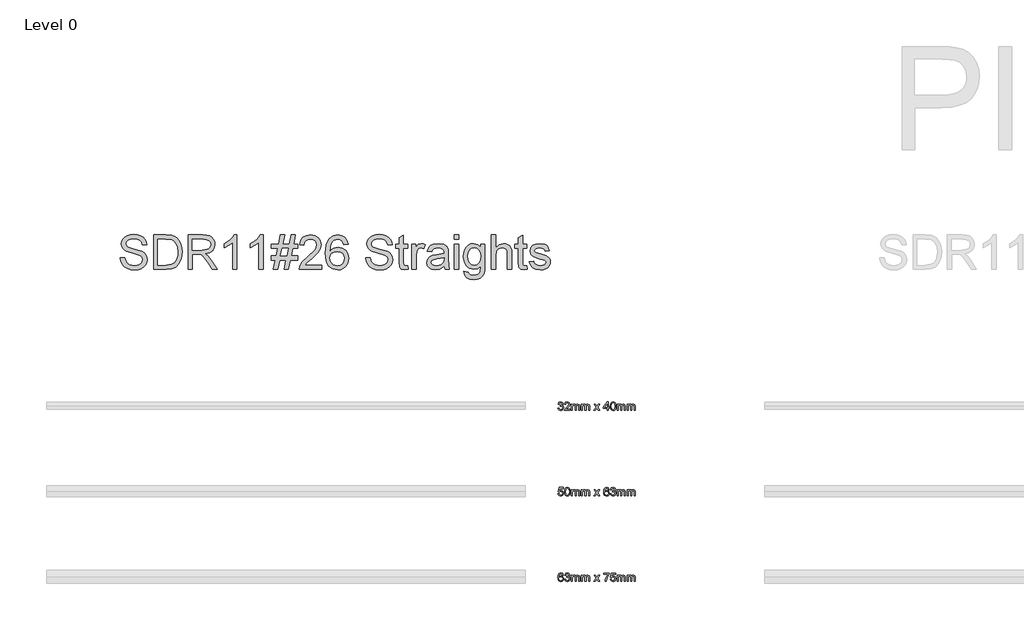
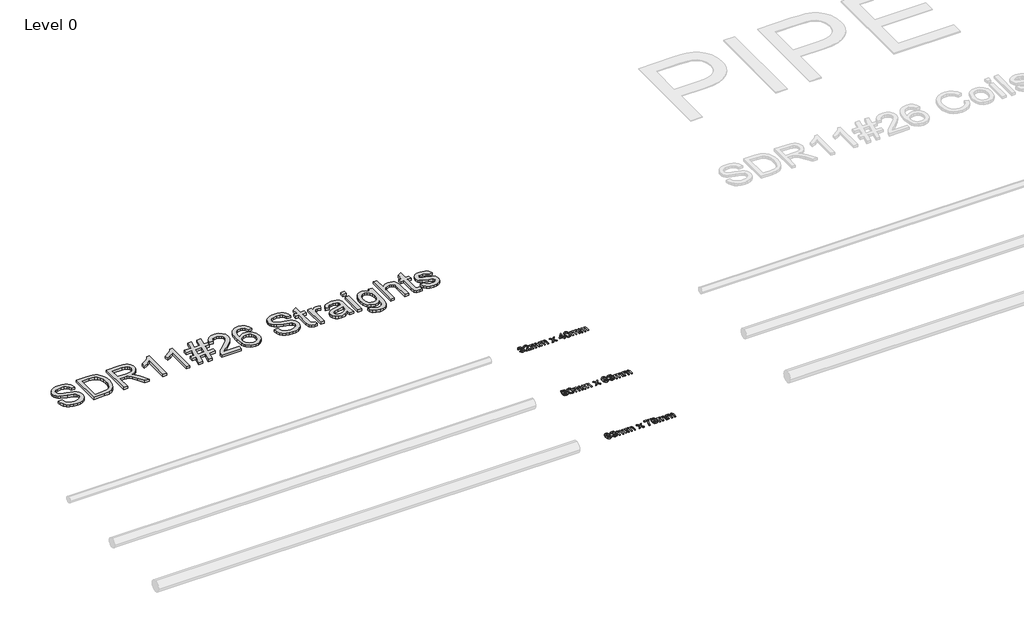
# One storey, part 19 of 21: 4 proxies.
"""IFC4 building model written with IfcOpenShell, lengths in millimetres."""

import ifcopenshell
import ifcopenshell.guid

model = None  # the IFC model being written
_history = None  # IfcOwnerHistory: only IFC2X3 demands one
_inside = {}  # id of a spatial element -> (the spatial element, [elements in it])
_under = {}  # id of a project, library or spatial element -> (it, [spatial elements below it])
_declared = {}  # id of a project -> (the project, [libraries it declares])
_typed = {}  # id of a type object -> (the type object, [elements of that type])
_made_of = {}  # id of a material, layer set ... -> (it, [elements and type objects made of it])


def new_model(schema):
    """Start an empty IFC model of exactly this schema.

    Asked for "IFC4X3", IfcOpenShell would pick the latest addendum, in which some entities
    have other attributes; the version numbers below select the first issue.
    IFC2X3 requires an IfcOwnerHistory on every rooted entity: one is made here for all.
    """
    global model, _history
    if schema == "IFC4X3":
        model = ifcopenshell.file(schema_version=(4, 3, 0, 0))
    else:
        model = ifcopenshell.file(schema=schema)
    _inside.clear()
    _under.clear()
    _declared.clear()
    _typed.clear()
    _made_of.clear()
    _history = None
    if model.schema == "IFC2X3":
        org = make("IfcOrganization", Name="unknown")
        user = make(
            "IfcPersonAndOrganization",
            ThePerson=make("IfcPerson", FamilyName="unknown"),
            TheOrganization=org,
        )
        app = make(
            "IfcApplication",
            ApplicationDeveloper=org,
            Version="unknown",
            ApplicationFullName="unknown",
            ApplicationIdentifier="unknown",
        )
        _history = make(
            "IfcOwnerHistory",
            OwningUser=user,
            OwningApplication=app,
            ChangeAction="ADDED",
            CreationDate=0,
        )
    return model


def make(cls, **values):
    """One entity of the class cls with the attributes given. An attribute that is None is left unset."""
    return model.create_entity(
        cls, **{name: value for name, value in values.items() if value is not None}
    )


def rooted(cls, **values):
    """An entity with a GlobalId (a new one), such as an element, a storey or a relation."""
    return make(cls, GlobalId=ifcopenshell.guid.new(), OwnerHistory=_history, **values)


def si_unit(unit_type, name, prefix=None):
    """IfcSIUnit, for example si_unit("LENGTHUNIT", "METRE", prefix="MILLI")."""
    return make("IfcSIUnit", UnitType=unit_type, Prefix=prefix, Name=name)


def assignment(units):
    """IfcUnitAssignment: the units of a project."""
    return None if units is None else make("IfcUnitAssignment", Units=units)


def point(xyz):
    """IfcCartesianPoint."""
    return None if xyz is None else make("IfcCartesianPoint", Coordinates=xyz)


def direction(xyz):
    """IfcDirection."""
    return None if xyz is None else make("IfcDirection", DirectionRatios=xyz)


def frame(location, z_axis=None, x_axis=None):
    """IfcAxis2Placement3D, a coordinate frame: its origin and axes. An axis left out is left unset."""
    return make(
        "IfcAxis2Placement3D",
        Location=point(location),
        Axis=direction(z_axis),
        RefDirection=direction(x_axis),
    )


def origin():
    """The frame at (0, 0, 0) with its axes left unset."""
    return frame((0.0, 0.0, 0.0))


def origin_with_axes():
    """The frame at (0, 0, 0) with the z axis (0, 0, 1) and the x axis (1, 0, 0) written out."""
    return frame((0.0, 0.0, 0.0), z_axis=(0.0, 0.0, 1.0), x_axis=(1.0, 0.0, 0.0))


def place(relative_to, where):
    """IfcLocalPlacement: puts the frame where relative to a parent placement (None: the world)."""
    return make(
        "IfcLocalPlacement", PlacementRelTo=relative_to, RelativePlacement=where
    )


def context(
    kind, dimensions, precision=None, world=None, true_north=None, identifier=None
):
    """IfcGeometricRepresentationContext, for example the 3D "Model" context."""
    return make(
        "IfcGeometricRepresentationContext",
        ContextIdentifier=identifier,
        ContextType=kind,
        CoordinateSpaceDimension=dimensions,
        Precision=precision,
        WorldCoordinateSystem=world,
        TrueNorth=true_north,
    )


def project(units=None, contexts=None):
    """IfcProject with its units and contexts."""
    return rooted(
        "IfcProject",
        Name="project",
        RepresentationContexts=contexts,
        UnitsInContext=assignment(units),
    )


def spatial(cls, under=None, at=None, **own):
    """A site, building, storey or space (cls), placed at a placement, below another one or the project."""
    s = rooted(cls, ObjectPlacement=at, **own)
    if under is not None:
        _under.setdefault(under.id(), (under, []))[1].append(s)
    return s


def polyline(points):
    """IfcPolyline through the points."""
    return make("IfcPolyline", Points=[point(p) for p in points])


def outline(outer, holes=None, kind="AREA"):
    """IfcArbitraryClosedProfileDef: a profile drawn as a closed curve; with holes, ...WithVoids."""
    if holes is None:
        return make("IfcArbitraryClosedProfileDef", ProfileType=kind, OuterCurve=outer)
    return make(
        "IfcArbitraryProfileDefWithVoids",
        ProfileType=kind,
        OuterCurve=outer,
        InnerCurves=holes,
    )


def extrude(swept, where, along, depth):
    """IfcExtrudedAreaSolid: the profile swept, set in the frame where, extruded along a direction by depth."""
    return make(
        "IfcExtrudedAreaSolid",
        SweptArea=swept,
        Position=where,
        ExtrudedDirection=direction(along),
        Depth=depth,
    )


def shape(context_of_items, identifier, shape_type, items):
    """IfcShapeRepresentation: the items that make up one representation, for example the "Body"."""
    return make(
        "IfcShapeRepresentation",
        ContextOfItems=context_of_items,
        RepresentationIdentifier=identifier,
        RepresentationType=shape_type,
        Items=items,
    )


def made_of(thing, what):
    """Note that an element or type object is made of a material, layer set ...; save() writes the relation."""
    if what is not None:
        _made_of.setdefault(what.id(), (what, []))[1].append(thing)
    return thing


def element(
    cls,
    number,
    at=None,
    inside=None,
    cuts=None,
    type_object=None,
    material=None,
    context=None,
    identifier="Body",
    shape_type=None,
    held_by="IfcProductDefinitionShape",
    body=None,
    shapes=None,
    **own,
):
    """One element of the class cls, such as IfcWall. Its Tag is "e" and its number.

    at: its placement. inside: the storey or other place that contains it. cuts: it is an
    opening in that element (IfcRelVoidsElement). A single representation is given by context,
    identifier, shape_type and body (its items); several are given by shapes. held_by: the class
    of the entity that holds the representations. save() writes the other relations.
    """
    e = rooted(cls, Tag="e%d" % number, ObjectPlacement=at, **own)
    if body is not None:
        shapes = [shape(context, identifier, shape_type, body)]
    if shapes is not None:
        e.Representation = make(held_by, Representations=shapes)
    if inside is not None:
        _inside.setdefault(inside.id(), (inside, []))[1].append(e)
    if cuts is not None:
        rooted(
            "IfcRelVoidsElement", RelatingBuildingElement=cuts, RelatedOpeningElement=e
        )
    if type_object is not None:
        _typed.setdefault(type_object.id(), (type_object, []))[1].append(e)
    return made_of(e, material)


def aggregate(whole, parts):
    """IfcRelAggregates: a whole, such as a stair, and the parts it consists of."""
    return rooted("IfcRelAggregates", RelatingObject=whole, RelatedObjects=parts)


def save(model, path):
    """Write the relations noted so far, then the file.

    IfcRelAggregates (storeys below a building ...), IfcRelContainedInSpatialStructure (elements
    in a storey), IfcRelDefinesByType, IfcRelAssociatesMaterial and IfcRelDeclares: one each for
    every whole, place, type object, material and project.
    """
    for whole, parts in _under.values():
        aggregate(whole, parts)
    for where, things in _inside.values():
        rooted(
            "IfcRelContainedInSpatialStructure",
            RelatedElements=things,
            RelatingStructure=where,
        )
    for kind, things in _typed.values():
        rooted("IfcRelDefinesByType", RelatedObjects=things, RelatingType=kind)
    for what, things in _made_of.values():
        rooted("IfcRelAssociatesMaterial", RelatedObjects=things, RelatingMaterial=what)
    for by, libraries in _declared.values():
        rooted("IfcRelDeclares", RelatingContext=by, RelatedDefinitions=libraries)
    model.write(path)


model = new_model("IFC4")

# Units and contexts
model_context = context("Model", 3, world=origin())
ifc_project = project(units=[si_unit("LENGTHUNIT", "METRE", prefix="MILLI")], contexts=[model_context])

# Site, building, storey
site = spatial("IfcSite", under=ifc_project)
building = spatial("IfcBuilding", under=site)
storey = spatial("IfcBuildingStorey", under=building, Name="Level 0", Elevation=0.0)

# Proxies
placement = place(None, origin())
element("IfcBuildingElementProxy", 1, Name="200mm Arial", ObjectType="200mm Arial", at=placement, inside=storey, context=model_context, shape_type="SweptSolid", body=[
    extrude(outline(polyline([(-11897.0717054, 4215.8524501), (-11871.9576279, 4215.8524501), (-11863.864224, 4190.7138471), (-11855.7340319, 4181.8233656), (-11844.0966981, 4174.8213449), (-11829.8719276, 4170.2780023), (-11813.9794254, 4168.7635548), (-11787.7371764, 4173.349817), (-11770.7900792, 4185.9559067), (-11765.2227983, 4202.804902), (-11769.3921276, 4218.476675), (-11775.7442234, 4224.6754867), (-11786.4618522, 4229.8810169), (-11823.0293225, 4239.4704742), (-11862.392696, 4251.8558347), (-11874.8945525, 4260.3048579), (-11883.7543772, 4270.5442401), (-11889.0334838, 4282.3532521), (-11890.793186, 4295.5111648), (-11888.6165509, 4310.2203133), (-11882.0866455, 4323.9361803), (-11871.375148, 4335.5612514), (-11856.6537369, 4343.9980118), (-11838.9831384, 4349.1299656), (-11819.4240789, 4350.8406169), (-11798.234076, 4349.0502579), (-11779.6928235, 4343.6791807), (-11764.4625089, 4334.8377501), (-11753.2053198, 4322.6363306), (-11746.0806718, 4307.8352117), (-11743.2479805, 4291.1946827), (-11768.362058, 4291.1946827), (-11772.9728457, 4306.1797427), (-11782.5868285, 4316.9954733), (-11797.6086766, 4323.5437729), (-11818.4430603, 4325.7265394), (-11839.7679533, 4323.5682983), (-11854.397394, 4317.0935752), (-11862.8586798, 4307.5654315), (-11865.6791085, 4296.2469288), (-11863.680283, 4286.5961578), (-11857.6838064, 4278.8338477), (-11843.5080869, 4271.8931407), (-11816.6772267, 4264.805281), (-11772.2370817, 4252.1991913), (-11757.9203407, 4243.0879805), (-11747.9323446, 4231.8430542), (-11742.0646267, 4218.5870396), (-11740.1087208, 4203.4425642), (-11742.3589323, 4187.9608635), (-11749.1095669, 4173.3988679), (-11760.0847131, 4160.8663546), (-11775.0084594, 4151.473101), (-11792.9549694, 4145.6053832), (-11812.9984068, 4143.6494772), (-11837.6035809, 4145.7586673), (-11857.8554847, 4152.0862376), (-11873.9871102, 4162.6567136), (-11886.2314493, 4177.4946208), (-11894.0918612, 4195.5698895), (-11897.0717054, 4215.8524501)])), origin_with_axes(), (0.0, 0.0, 1.0), 15.0),
    extrude(outline(polyline([(-11702.4376045, 4146.7887369), (-11702.4376045, 4347.7013572), (-11633.1286366, 4347.7013572), (-11597.2724048, 4344.8073522), (-11581.2572753, 4339.2278086), (-11567.7437433, 4330.4354289), (-11553.8500666, 4315.1315379), (-11543.954041, 4296.099776), (-11538.0311408, 4273.7080252), (-11536.0568408, 4248.3241676), (-11541.4033925, 4207.7835717), (-11555.1376536, 4178.5246904), (-11573.4827024, 4160.3022689), (-11597.493134, 4150.2223022), (-11629.7931732, 4146.7887369), (-11702.4376045, 4146.7887369)]), holes=[polyline([(-11677.3235269, 4171.9028144), (-11632.8833819, 4171.9028144), (-11600.5588173, 4175.5325835), (-11581.9194629, 4185.7842284), (-11573.1945282, 4196.6551414), (-11566.6400973, 4210.7266277), (-11562.5382131, 4228.060001), (-11561.1709183, 4248.716575), (-11563.8503255, 4276.0869955), (-11571.8885471, 4296.2959797), (-11583.7650042, 4310.1773937), (-11597.9591178, 4318.5651032), (-11633.570095, 4322.5872797), (-11677.3235269, 4322.5872797), (-11677.3235269, 4171.9028144)])]), origin_with_axes(), (0.0, 0.0, 1.0), 15.0),
    extrude(outline(polyline([(-11501.5249842, 4146.7887369), (-11501.5249842, 4347.7013572), (-11414.950088, 4347.7013572), (-11391.6815518, 4346.3463252), (-11374.7528486, 4342.2812291), (-11362.3797509, 4334.7764364), (-11352.7780308, 4323.1023145), (-11346.6160074, 4308.626158), (-11344.5619996, 4292.7152617), (-11347.964908, 4272.9232103), (-11358.1736334, 4256.5156733), (-11375.494744, 4244.4859321), (-11400.2348082, 4237.827268), (-11385.9609868, 4227.0851137), (-11365.6048497, 4201.2352722), (-11332.1030627, 4146.7887369), (-11361.2883676, 4146.7887369), (-11387.4325147, 4188.4329788), (-11406.3171238, 4215.9996029), (-11419.5854011, 4229.0226256), (-11431.5293032, 4233.8050915), (-11446.0974302, 4234.6880083), (-11476.4109066, 4234.6880083), (-11476.4109066, 4146.7887369), (-11501.5249842, 4146.7887369)]), holes=[polyline([(-11476.4109066, 4259.8020858), (-11420.1985378, 4259.8020858), (-11391.5282676, 4263.3582784), (-11382.0982258, 4267.9813289), (-11375.243358, 4274.7380948), (-11369.6760771, 4291.7832939), (-11372.3309588, 4304.0337644), (-11380.295604, 4313.9052646), (-11393.9992084, 4320.4167759), (-11413.8709675, 4322.5872797), (-11476.4109066, 4322.5872797), (-11476.4109066, 4259.8020858)])]), origin_with_axes(), (0.0, 0.0, 1.0), 15.0),
    extrude(outline(polyline([(-11215.8523522, 4146.7887369), (-11240.9664297, 4146.7887369), (-11240.9664297, 4303.3593141), (-11264.7561321, 4286.4122168), (-11291.1945848, 4273.7325507), (-11291.1945848, 4297.4732021), (-11254.3818598, 4320.9685989), (-11240.9112474, 4334.5434445), (-11232.03916, 4347.7013572), (-11215.8523522, 4347.7013572), (-11215.8523522, 4146.7887369)])), origin_with_axes(), (0.0, 0.0, 1.0), 15.0),
    extrude(outline(polyline([(-11062.0286273, 4146.7887369), (-11087.1427048, 4146.7887369), (-11087.1427048, 4303.3593141), (-11110.9324072, 4286.4122168), (-11137.3708599, 4273.7325507), (-11137.3708599, 4297.4732021), (-11100.5581349, 4320.9685989), (-11087.0875225, 4334.5434445), (-11078.2154351, 4347.7013572), (-11062.0286273, 4347.7013572), (-11062.0286273, 4146.7887369)])), origin_with_axes(), (0.0, 0.0, 1.0), 15.0),
    extrude(outline(polyline([(-11002.3826931, 4146.7887369), (-10991.542437, 4200.1561517), (-11014.9397319, 4200.1561517), (-11014.9397319, 4225.2702292), (-10986.44114, 4225.2702292), (-10977.5138703, 4269.2198649), (-11014.9397319, 4269.2198649), (-11014.9397319, 4294.3339424), (-10972.4125733, 4294.3339424), (-10961.5723171, 4347.7013572), (-10936.1148831, 4347.7013572), (-10946.9551392, 4294.3339424), (-10910.0197869, 4294.3339424), (-10899.1795307, 4347.7013572), (-10873.6730457, 4347.7013572), (-10884.5133019, 4294.3339424), (-10861.116007, 4294.3339424), (-10861.116007, 4269.2198649), (-10889.6145989, 4269.2198649), (-10898.5418686, 4225.2702292), (-10861.116007, 4225.2702292), (-10861.116007, 4200.1561517), (-10903.6431656, 4200.1561517), (-10914.4834217, 4146.7887369), (-10939.9899067, 4146.7887369), (-10929.1496506, 4200.1561517), (-10966.035952, 4200.1561517), (-10976.8762081, 4146.7887369), (-11002.3826931, 4146.7887369)]), holes=[polyline([(-10960.934655, 4225.2702292), (-10924.0483536, 4225.2702292), (-10915.1210839, 4269.2198649), (-10952.0564362, 4269.2198649), (-10960.934655, 4225.2702292)])]), origin_with_axes(), (0.0, 0.0, 1.0), 15.0),
    extrude(outline(polyline([(-10719.8493208, 4171.9028144), (-10719.8493208, 4146.7887369), (-10851.6982279, 4146.7887369), (-10849.0004266, 4164.1037161), (-10833.7455865, 4190.7628981), (-10802.3039387, 4219.8746266), (-10758.9429142, 4261.7150722), (-10750.8127221, 4276.1360464), (-10748.1026581, 4290.1646132), (-10750.6594379, 4302.740046), (-10758.3297775, 4313.1940261), (-10770.1203955, 4320.2389663), (-10785.0380104, 4322.5872797), (-10800.703652, 4320.2941486), (-10812.8744147, 4313.4147553), (-10820.7286953, 4302.48866), (-10823.4448907, 4288.0554231), (-10848.5589682, 4291.1946827), (-10842.4705212, 4315.4871572), (-10829.3064771, 4333.2313321), (-10809.7535491, 4344.0838509), (-10784.4984501, 4347.7013572), (-10759.0594101, 4343.6791807), (-10739.5432703, 4331.6126513), (-10727.127253, 4313.5864335), (-10722.9885805, 4291.6851921), (-10727.4522154, 4267.8709643), (-10742.2901225, 4243.247396), (-10778.2689817, 4208.8381668), (-10807.159981, 4184.6805824), (-10818.4907465, 4171.9028144), (-10719.8493208, 4171.9028144)])), origin_with_axes(), (0.0, 0.0, 1.0), 15.0),
    extrude(outline(polyline([(-10566.0255959, 4294.3339424), (-10591.1396734, 4291.1946827), (-10600.6555544, 4312.139431), (-10612.0476335, 4319.9753175), (-10625.8186829, 4322.5872797), (-10648.4802138, 4316.504964), (-10657.9163869, 4306.8971126), (-10665.6235147, 4293.6717549), (-10670.829045, 4274.9649554), (-10672.7604254, 4248.9127788), (-10662.6865901, 4260.6666085), (-10650.6139293, 4268.9500848), (-10637.2168933, 4273.8613094), (-10623.1699325, 4275.4983843), (-10599.9688413, 4271.0224867), (-10580.4956211, 4257.5947939), (-10567.2886574, 4237.0792413), (-10562.8863362, 4211.3397643), (-10564.9587381, 4193.3564661), (-10571.1759438, 4176.6852804), (-10581.0229186, 4162.546349), (-10593.9846275, 4152.159814), (-10609.4724595, 4145.7770614), (-10626.8978034, 4143.6494772), (-10655.3902639, 4149.2903345), (-10678.0824516, 4166.2129063), (-10686.7414741, 4179.321768), (-10692.9264901, 4196.0849243), (-10697.874503, 4240.5741202), (-10692.3807985, 4290.5938088), (-10685.5136679, 4309.671556), (-10675.8996851, 4324.7945716), (-10665.4794276, 4334.8162903), (-10653.3975698, 4341.9746608), (-10624.249053, 4347.7013572), (-10602.2129215, 4344.1574273), (-10584.5668485, 4333.5256377), (-10572.2060134, 4316.6398541), (-10566.0255959, 4294.3339424)]), holes=[polyline([(-10672.7604254, 4211.7321718), (-10666.9478899, 4189.9780831), (-10651.4968461, 4174.1836828), (-10628.8598407, 4168.7635548), (-10612.2867568, 4171.5717207), (-10599.2576028, 4179.9962183), (-10590.814711, 4193.2399702), (-10588.0004138, 4210.5058985), (-10590.7779228, 4227.0789824), (-10599.11045, 4239.7157289), (-10612.3603332, 4247.7171623), (-10629.8899103, 4250.3843068), (-10646.4384687, 4247.7171623), (-10660.2769631, 4239.7157289), (-10669.6395599, 4227.3855507), (-10672.7604254, 4211.7321718)])]), origin_with_axes(), (0.0, 0.0, 1.0), 15.0),
    extrude(outline(polyline([(-10462.4300261, 4215.8524501), (-10437.3159485, 4215.8524501), (-10429.2225446, 4190.7138471), (-10421.0923525, 4181.8233656), (-10409.4550188, 4174.8213449), (-10395.2302483, 4170.2780023), (-10379.3377461, 4168.7635548), (-10353.0954971, 4173.349817), (-10336.1483999, 4185.9559067), (-10330.581119, 4202.804902), (-10334.7504483, 4218.476675), (-10341.1025441, 4224.6754867), (-10351.8201729, 4229.8810169), (-10388.3876432, 4239.4704742), (-10427.7510167, 4251.8558347), (-10440.2528731, 4260.3048579), (-10449.1126978, 4270.5442401), (-10454.3918045, 4282.3532521), (-10456.1515067, 4295.5111648), (-10453.9748715, 4310.2203133), (-10447.4449661, 4323.9361803), (-10436.7334687, 4335.5612514), (-10422.0120575, 4343.9980118), (-10404.341459, 4349.1299656), (-10384.7823996, 4350.8406169), (-10363.5923967, 4349.0502579), (-10345.0511441, 4343.6791807), (-10329.8208295, 4334.8377501), (-10318.5636405, 4322.6363306), (-10311.4389925, 4307.8352117), (-10308.6063012, 4291.1946827), (-10333.7203787, 4291.1946827), (-10338.3311664, 4306.1797427), (-10347.9451492, 4316.9954733), (-10362.9669973, 4323.5437729), (-10383.801381, 4325.7265394), (-10405.126274, 4323.5682983), (-10419.7557146, 4317.0935752), (-10428.2170005, 4307.5654315), (-10431.0374291, 4296.2469288), (-10429.0386036, 4286.5961578), (-10423.0421271, 4278.8338477), (-10408.8664076, 4271.8931407), (-10382.0355474, 4264.805281), (-10337.5954024, 4252.1991913), (-10323.2786614, 4243.0879805), (-10313.2906652, 4231.8430542), (-10307.4229474, 4218.5870396), (-10305.4670415, 4203.4425642), (-10307.717253, 4187.9608635), (-10314.4678876, 4173.3988679), (-10325.4430338, 4160.8663546), (-10340.3667801, 4151.473101), (-10358.3132901, 4145.6053832), (-10378.3567274, 4143.6494772), (-10402.9619016, 4145.7586673), (-10423.2138054, 4152.0862376), (-10439.3454309, 4162.6567136), (-10451.5897699, 4177.4946208), (-10459.4501819, 4195.5698895), (-10462.4300261, 4215.8524501)])), origin_with_axes(), (0.0, 0.0, 1.0), 15.0),
    extrude(outline(polyline([(-10217.5677701, 4167.7334852), (-10214.4285104, 4146.0529729), (-10233.2150176, 4143.6494772), (-10254.2578677, 4147.8188065), (-10264.7547673, 4158.7571645), (-10267.7959252, 4187.2557564), (-10267.7959252, 4269.2198649), (-10286.6314833, 4269.2198649), (-10286.6314833, 4294.3339424), (-10267.7959252, 4294.3339424), (-10267.7959252, 4330.1901742), (-10242.6818476, 4344.954505), (-10242.6818476, 4294.3339424), (-10217.5677701, 4294.3339424), (-10217.5677701, 4269.2198649), (-10242.6818476, 4269.2198649), (-10242.6818476, 4187.9915204), (-10241.3574724, 4175.0420741), (-10237.0655158, 4170.4558119), (-10228.5061281, 4168.7635548), (-10217.5677701, 4167.7334852)])), origin_with_axes(), (0.0, 0.0, 1.0), 15.0),
    extrude(outline(polyline([(-10192.4536925, 4146.7887369), (-10192.4536925, 4294.3339424), (-10170.4788747, 4294.3339424), (-10170.4788747, 4272.5062774), (-10154.8806781, 4292.6171598), (-10139.1843796, 4297.4732021), (-10126.6763918, 4295.5356903), (-10113.9722002, 4289.7231548), (-10122.3599097, 4267.2087767), (-10140.0182455, 4272.3591246), (-10154.2184905, 4267.4049804), (-10163.2683876, 4253.6707192), (-10167.339615, 4224.3382615), (-10167.339615, 4146.7887369), (-10192.4536925, 4146.7887369)])), origin_with_axes(), (0.0, 0.0, 1.0), 15.0),
    extrude(outline(polyline([(-10004.098111, 4165.6242951), (-10028.4518991, 4148.6036214), (-10055.3563357, 4143.6494772), (-10076.3440035, 4146.6293214), (-10091.8257041, 4155.5688539), (-10101.3722419, 4169.1436995), (-10104.5544212, 4186.0294831), (-10099.7474298, 4205.8951108), (-10087.1168146, 4220.316085), (-10069.5320552, 4228.5566417), (-10047.802492, 4232.3335635), (-10004.2452638, 4240.9665277), (-10004.098111, 4246.558334), (-10005.8271564, 4257.7664721), (-10011.0142925, 4265.0995866), (-10022.6148381, 4270.5442401), (-10038.7771204, 4272.3591246), (-10053.7376549, 4271.1512454), (-10064.1855036, 4267.5276077), (-10071.3101515, 4260.826024), (-10076.3010839, 4250.3843068), (-10101.4151615, 4253.5235664), (-10090.5503799, 4278.0490328), (-10081.2920163, 4286.3018522), (-10068.6736639, 4292.4209561), (-10035.5397589, 4297.4732021), (-10005.1036551, 4293.0095673), (-9987.9113032, 4281.8014291), (-9980.2103068, 4264.75623), (-9978.9840335, 4242.7814122), (-9978.9840335, 4211.5359681), (-9977.7087092, 4167.9051634), (-9972.7055141, 4146.7887369), (-9997.8195916, 4146.7887369), (-10004.098111, 4165.6242951)]), holes=[polyline([(-10004.098111, 4215.8524501), (-10044.6141814, 4208.1514537), (-10066.2211173, 4204.0802263), (-10076.0067783, 4197.4583504), (-10079.4403436, 4187.7953166), (-10077.5702768, 4180.3273121), (-10071.9600764, 4174.2082083), (-10062.7323697, 4170.1247181), (-10050.009784, 4168.7635548), (-10036.5207775, 4170.2657396), (-10024.6014009, 4174.772294), (-10008.2183894, 4189.3158956), (-10004.2452638, 4208.7400649), (-10004.098111, 4215.8524501)])]), origin_with_axes(), (0.0, 0.0, 1.0), 15.0),
    extrude(outline(polyline([(-9944.4521769, 4146.7887369), (-9944.4521769, 4294.3339424), (-9919.3380993, 4294.3339424), (-9919.3380993, 4146.7887369), (-9944.4521769, 4146.7887369)])), origin_with_axes(), (0.0, 0.0, 1.0), 15.0),
    extrude(outline(polyline([(-9944.4521769, 4322.5872797), (-9944.4521769, 4347.7013572), (-9919.3380993, 4347.7013572), (-9919.3380993, 4322.5872797), (-9944.4521769, 4322.5872797)])), origin_with_axes(), (0.0, 0.0, 1.0), 15.0),
    extrude(outline(polyline([(-9887.9455024, 4134.2316981), (-9862.8314249, 4131.0924384), (-9860.0600472, 4123.2442892), (-9854.68897, 4117.8486866), (-9844.1307568, 4113.6548319), (-9830.3106565, 4112.2568803), (-9815.5708512, 4113.8387729), (-9804.6079678, 4118.5844506), (-9797.0050732, 4126.1873452), (-9792.3452346, 4136.3408882), (-9790.6284519, 4165.6242951), (-9808.3113132, 4151.4976264), (-9829.8691981, 4146.7887369), (-9855.7619592, 4152.2701786), (-9875.0696326, 4168.7145038), (-9887.0809797, 4192.8230372), (-9891.0847621, 4221.2971037), (-9889.2882717, 4241.573533), (-9883.8988005, 4260.2190188), (-9875.1064208, 4276.0195504), (-9863.101205, 4287.7611175), (-9848.2939547, 4295.045181), (-9831.0954714, 4297.4732021), (-9808.6914579, 4291.9794977), (-9790.6284519, 4275.4983843), (-9790.6284519, 4294.3339424), (-9765.5143744, 4294.3339424), (-9765.5143744, 4166.9486702), (-9767.2311571, 4137.5365047), (-9772.381505, 4118.1675177), (-9781.2535924, 4105.3223047), (-9794.1355936, 4095.4814613), (-9810.7454657, 4089.2274674), (-9830.8011658, 4087.1428028), (-9854.1678039, 4090.0797274), (-9872.568035, 4098.8905011), (-9884.3709157, 4113.5996496), (-9887.9455024, 4134.2316981)]), holes=[polyline([(-9865.9706846, 4223.0138863), (-9863.2912774, 4199.978342), (-9855.2530558, 4184.1410222), (-9843.1681322, 4174.9623664), (-9828.3486192, 4171.9028144), (-9813.6394707, 4174.9439723), (-9801.4932335, 4184.0674458), (-9793.3446473, 4199.7024305), (-9790.6284519, 4222.2781223), (-9793.4243551, 4244.0506051), (-9801.8120646, 4259.7285094), (-9814.1361114, 4269.2014708), (-9828.7410266, 4272.3591246), (-9843.0822931, 4269.2505217), (-9855.105903, 4259.9247132), (-9863.2544892, 4244.4798007), (-9865.9706846, 4223.0138863)])]), origin_with_axes(), (0.0, 0.0, 1.0), 15.0),
    extrude(outline(polyline([(-9727.8432581, 4146.7887369), (-9727.8432581, 4347.7013572), (-9702.7291806, 4347.7013572), (-9702.7291806, 4273.8306526), (-9683.1455957, 4291.5625647), (-9659.0247995, 4297.4732021), (-9643.8557986, 4295.8606527), (-9630.8205132, 4291.0230045), (-9620.5566056, 4283.3404022), (-9613.7017377, 4273.1929905), (-9609.8389768, 4259.2502628), (-9608.5513898, 4240.1817128), (-9608.5513898, 4146.7887369), (-9633.6654673, 4146.7887369), (-9633.6654673, 4237.5820133), (-9635.6642928, 4253.3028372), (-9641.6607694, 4264.069517), (-9651.3238031, 4270.2867227), (-9664.3223003, 4272.3591246), (-9684.8991665, 4266.7673183), (-9693.151986, 4260.1822306), (-9698.6334277, 4251.6105801), (-9702.7291806, 4225.1721273), (-9702.7291806, 4146.7887369), (-9727.8432581, 4146.7887369)])), origin_with_axes(), (0.0, 0.0, 1.0), 15.0),
    extrude(outline(polyline([(-9520.6521184, 4167.7334852), (-9517.5128587, 4146.0529729), (-9536.2993659, 4143.6494772), (-9557.3422161, 4147.8188065), (-9567.8391157, 4158.7571645), (-9570.8802735, 4187.2557564), (-9570.8802735, 4269.2198649), (-9589.7158316, 4269.2198649), (-9589.7158316, 4294.3339424), (-9570.8802735, 4294.3339424), (-9570.8802735, 4330.1901742), (-9545.766196, 4344.954505), (-9545.766196, 4294.3339424), (-9520.6521184, 4294.3339424), (-9520.6521184, 4269.2198649), (-9545.766196, 4269.2198649), (-9545.766196, 4187.9915204), (-9544.4418208, 4175.0420741), (-9540.1498642, 4170.4558119), (-9531.5904764, 4168.7635548), (-9520.6521184, 4167.7334852)])), origin_with_axes(), (0.0, 0.0, 1.0), 15.0),
    extrude(outline(polyline([(-9504.95582, 4190.7383726), (-9479.8417424, 4193.8776323), (-9475.8808796, 4183.135478), (-9468.2166714, 4175.2382779), (-9456.8000668, 4170.3822355), (-9441.5820149, 4168.7635548), (-9426.5479041, 4170.2473455), (-9415.9774281, 4174.6987176), (-9409.7234341, 4181.1489153), (-9407.6387695, 4188.6291825), (-9409.7356969, 4195.0303292), (-9416.026479, 4199.910897), (-9441.8763205, 4207.0723332), (-9479.6945896, 4219.3595918), (-9489.2656529, 4225.533878), (-9496.2002285, 4233.7069896), (-9501.8165603, 4253.9650248), (-9497.3038745, 4272.6779557), (-9484.9920904, 4286.9763025), (-9469.0260118, 4294.4075188), (-9447.4190759, 4297.4732021), (-9416.8603448, 4292.5435834), (-9405.4314775, 4286.7433106), (-9397.4361755, 4279.2017297), (-9388.8032113, 4256.6628261), (-9413.9172889, 4253.5235664), (-9417.0872054, 4261.426898), (-9423.3595934, 4267.3804549), (-9445.4570386, 4272.3591246), (-9459.8780128, 4271.1696395), (-9469.4919956, 4267.6011841), (-9474.899861, 4262.4508362), (-9476.7024827, 4256.5156733), (-9473.7103758, 4249.2070844), (-9464.3416477, 4243.664329), (-9442.7101864, 4238.3177773), (-9405.8484105, 4226.4965025), (-9388.7296349, 4213.1055979), (-9384.0759277, 4203.2586232), (-9382.524692, 4191.2779329), (-9384.3457078, 4178.8925724), (-9389.8087555, 4167.2429758), (-9398.7053684, 4157.2427169), (-9410.8270801, 4149.8053693), (-9425.4687835, 4145.1884502), (-9441.9253715, 4143.6494772), (-9467.2479155, 4146.6170586), (-9485.7278543, 4155.5198029), (-9498.0641639, 4170.2596082), (-9504.95582, 4190.7383726)])), origin_with_axes(), (0.0, 0.0, 1.0), 15.0),
])
element("IfcBuildingElementProxy", 2, Name="50mm", ObjectType="50mm", at=placement, inside=storey, context=model_context, shape_type="SweptSolid", body=[
    extrude(outline(polyline([(-9338.5395132, 3335.1305906), (-9332.2609938, 3335.9154055), (-9328.7967717, 3329.3057923), (-9322.3159172, 3327.2824414), (-9314.6884972, 3330.0660818), (-9311.8558058, 3336.9577378), (-9314.6639717, 3343.4508551), (-9321.8008824, 3346.0198977), (-9326.2032036, 3345.3331846), (-9325.5042278, 3351.611704), (-9317.3740358, 3353.3407494), (-9314.2102506, 3358.8835048), (-9316.5033817, 3363.7947294), (-9322.4140191, 3365.7383726), (-9328.3982329, 3363.7763353), (-9331.4761789, 3357.8902234), (-9337.7546983, 3358.6750383), (-9332.6166131, 3368.522013), (-9322.6347483, 3372.016892), (-9315.0625106, 3370.293978), (-9309.7650098, 3365.5850884), (-9307.9317312, 3359.2513868), (-9309.6730393, 3353.4633767), (-9314.8233873, 3349.3063101), (-9307.9807821, 3345.0143535), (-9305.5772864, 3336.8473732), (-9310.3842778, 3325.6147097), (-9322.5366464, 3321.003922), (-9333.5485808, 3324.9402593), (-9338.5395132, 3335.1305906)])), origin_with_axes(), (0.0, 0.0, 1.0), 5.0),
    extrude(outline(polyline([(-9267.9061701, 3328.0672563), (-9267.9061701, 3321.7887369), (-9300.8683969, 3321.7887369), (-9300.1939466, 3326.1174817), (-9296.3802366, 3332.7822772), (-9288.5198246, 3340.0602093), (-9277.6795685, 3350.5203207), (-9274.9695044, 3357.632706), (-9277.5262843, 3363.3900592), (-9284.2033425, 3365.7383726), (-9291.1624436, 3363.4452415), (-9293.8050626, 3357.1054084), (-9300.083582, 3357.8902234), (-9295.2704592, 3368.3993857), (-9284.0684525, 3372.016892), (-9272.8296575, 3367.9947155), (-9268.6909851, 3358.0128507), (-9269.8068938, 3352.0592937), (-9273.5163706, 3345.9034017), (-9282.5110853, 3337.3010944), (-9289.7338352, 3331.2616983), (-9292.5665265, 3328.0672563), (-9267.9061701, 3328.0672563)])), origin_with_axes(), (0.0, 0.0, 1.0), 5.0),
    extrude(outline(polyline([(-9260.0580209, 3321.7887369), (-9260.0580209, 3358.6750383), (-9253.7795015, 3358.6750383), (-9253.7795015, 3352.6049854), (-9249.4630194, 3357.5775237), (-9243.3193901, 3359.4598532), (-9237.028608, 3357.5407355), (-9233.5705173, 3352.163527), (-9228.6715554, 3357.6357717), (-9222.4850065, 3359.4598532), (-9214.2751066, 3356.4248268), (-9211.3994957, 3347.0744927), (-9211.3994957, 3321.7887369), (-9217.6780151, 3321.7887369), (-9217.6780151, 3344.3766914), (-9218.2604949, 3349.6190098), (-9220.369685, 3352.2003152), (-9223.9565344, 3353.1813338), (-9230.1308206, 3350.6674735), (-9232.5894986, 3342.6108578), (-9232.5894986, 3321.7887369), (-9238.868018, 3321.7887369), (-9238.868018, 3345.0756672), (-9240.3211519, 3351.1579829), (-9245.0852237, 3353.1813338), (-9249.7327996, 3351.8324332), (-9252.8230083, 3347.8838331), (-9253.7795015, 3340.3913031), (-9253.7795015, 3321.7887369), (-9260.0580209, 3321.7887369)])), origin_with_axes(), (0.0, 0.0, 1.0), 5.0),
    extrude(outline(polyline([(-9201.9817166, 3321.7887369), (-9201.9817166, 3358.6750383), (-9195.7031972, 3358.6750383), (-9195.7031972, 3352.6049854), (-9191.3867151, 3357.5775237), (-9185.2430858, 3359.4598532), (-9178.9523037, 3357.5407355), (-9175.4942129, 3352.163527), (-9170.595251, 3357.6357717), (-9164.4087022, 3359.4598532), (-9156.1988023, 3356.4248268), (-9153.3231914, 3347.0744927), (-9153.3231914, 3321.7887369), (-9159.6017108, 3321.7887369), (-9159.6017108, 3344.3766914), (-9160.1841906, 3349.6190098), (-9162.2933807, 3352.2003152), (-9165.8802301, 3353.1813338), (-9172.0545163, 3350.6674735), (-9174.5131943, 3342.6108578), (-9174.5131943, 3321.7887369), (-9180.7917137, 3321.7887369), (-9180.7917137, 3345.0756672), (-9182.2448476, 3351.1579829), (-9187.0089194, 3353.1813338), (-9191.6564953, 3351.8324332), (-9194.746704, 3347.8838331), (-9195.7031972, 3340.3913031), (-9195.7031972, 3321.7887369), (-9201.9817166, 3321.7887369)])), origin_with_axes(), (0.0, 0.0, 1.0), 5.0),
    extrude(outline(polyline([(-9128.2091138, 3321.7887369), (-9114.7936837, 3340.3299895), (-9127.4242989, 3358.6750383), (-9119.8704553, 3358.6750383), (-9113.7758769, 3349.8458704), (-9110.9309228, 3345.6765411), (-9108.4661134, 3349.085581), (-9101.5254065, 3358.6750383), (-9093.9715628, 3358.6750383), (-9107.2398401, 3340.3299895), (-9094.4620721, 3321.7887369), (-9102.0159158, 3321.7887369), (-9109.7046495, 3332.9355614), (-9111.1148638, 3334.9711751), (-9120.6552702, 3321.7887369), (-9128.2091138, 3321.7887369)])), origin_with_axes(), (0.0, 0.0, 1.0), 5.0),
    extrude(outline(polyline([(-9050.5124365, 3321.7887369), (-9050.5124365, 3333.5609608), (-9073.2720692, 3333.5609608), (-9073.2720692, 3339.8394801), (-9048.9428066, 3371.2320771), (-9044.2339171, 3371.2320771), (-9044.2339171, 3339.8394801), (-9037.9553977, 3339.8394801), (-9037.9553977, 3333.5609608), (-9044.2339171, 3333.5609608), (-9044.2339171, 3321.7887369), (-9050.5124365, 3321.7887369)]), holes=[polyline([(-9050.5124365, 3339.8394801), (-9050.5124365, 3359.239124), (-9065.5465473, 3339.8394801), (-9050.5124365, 3339.8394801)])]), origin_with_axes(), (0.0, 0.0, 1.0), 5.0),
    extrude(outline(polyline([(-9032.4616932, 3346.4981443), (-9030.6161519, 3360.9497753), (-9025.1347102, 3369.2823025), (-9015.9805798, 3372.016892), (-9008.6474654, 3370.3982112), (-9003.5829566, 3365.7322412), (-9000.6399006, 3358.3010249), (-8999.4994665, 3346.4981443), (-9001.3266137, 3332.1078269), (-9006.7896613, 3323.7569056), (-9015.9805798, 3321.003922), (-9027.4584981, 3325.7863879), (-9031.2108944, 3334.2813963), (-9032.4616932, 3346.4981443)]), holes=[polyline([(-9026.1831738, 3346.510407), (-9023.2401179, 3330.9183418), (-9015.9805798, 3327.2824414), (-9008.7210418, 3330.9306045), (-9005.7779858, 3346.510407), (-9008.6229399, 3361.9246626), (-9016.0541562, 3365.7383726), (-9023.142016, 3362.3783837), (-9026.1831738, 3346.510407)])]), origin_with_axes(), (0.0, 0.0, 1.0), 5.0),
    extrude(outline(polyline([(-8992.4361321, 3321.7887369), (-8992.4361321, 3358.6750383), (-8986.1576128, 3358.6750383), (-8986.1576128, 3352.6049854), (-8981.8411307, 3357.5775237), (-8975.6975014, 3359.4598532), (-8969.4067193, 3357.5407355), (-8965.9486285, 3352.163527), (-8961.0496666, 3357.6357717), (-8954.8631177, 3359.4598532), (-8946.6532178, 3356.4248268), (-8943.7776069, 3347.0744927), (-8943.7776069, 3321.7887369), (-8950.0561263, 3321.7887369), (-8950.0561263, 3344.3766914), (-8950.6386061, 3349.6190098), (-8952.7477962, 3352.2003152), (-8956.3346457, 3353.1813338), (-8962.5089318, 3350.6674735), (-8964.9676098, 3342.6108578), (-8964.9676098, 3321.7887369), (-8971.2461292, 3321.7887369), (-8971.2461292, 3345.0756672), (-8972.6992631, 3351.1579829), (-8977.4633349, 3353.1813338), (-8982.1109108, 3351.8324332), (-8985.2011196, 3347.8838331), (-8986.1576128, 3340.3913031), (-8986.1576128, 3321.7887369), (-8992.4361321, 3321.7887369)])), origin_with_axes(), (0.0, 0.0, 1.0), 5.0),
    extrude(outline(polyline([(-8934.3598278, 3321.7887369), (-8934.3598278, 3358.6750383), (-8928.0813085, 3358.6750383), (-8928.0813085, 3352.6049854), (-8923.7648264, 3357.5775237), (-8917.6211971, 3359.4598532), (-8911.3304149, 3357.5407355), (-8907.8723242, 3352.163527), (-8902.9733623, 3357.6357717), (-8896.7868134, 3359.4598532), (-8888.5769135, 3356.4248268), (-8885.7013026, 3347.0744927), (-8885.7013026, 3321.7887369), (-8891.979822, 3321.7887369), (-8891.979822, 3344.3766914), (-8892.5623018, 3349.6190098), (-8894.6714919, 3352.2003152), (-8898.2583414, 3353.1813338), (-8904.4326275, 3350.6674735), (-8906.8913055, 3342.6108578), (-8906.8913055, 3321.7887369), (-8913.1698249, 3321.7887369), (-8913.1698249, 3345.0756672), (-8914.6229588, 3351.1579829), (-8919.3870306, 3353.1813338), (-8924.0346065, 3351.8324332), (-8927.1248153, 3347.8838331), (-8928.0813085, 3340.3913031), (-8928.0813085, 3321.7887369), (-8934.3598278, 3321.7887369)])), origin_with_axes(), (0.0, 0.0, 1.0), 5.0),
])
element("IfcBuildingElementProxy", 3, Name="50mm", ObjectType="50mm", at=placement, inside=storey, context=model_context, shape_type="SweptSolid", body=[
    extrude(outline(polyline([(-9338.5395132, 2835.1305906), (-9332.2609938, 2835.9154055), (-9329.0972087, 2829.4468138), (-9322.5366464, 2827.2824414), (-9314.6639717, 2830.2929424), (-9311.8558058, 2838.282113), (-9314.4861621, 2845.7378548), (-9322.4385446, 2848.4724443), (-9327.9506431, 2847.381061), (-9331.4761789, 2844.5483697), (-9337.7546983, 2845.3331846), (-9332.2609938, 2871.2320771), (-9307.9317312, 2871.2320771), (-9307.9317312, 2864.9535577), (-9327.1842223, 2864.9535577), (-9329.8697609, 2851.1211947), (-9320.6849737, 2854.7509637), (-9309.9489508, 2850.2505406), (-9305.5772864, 2838.6745205), (-9309.5136238, 2827.024924), (-9315.1667438, 2822.5091725), (-9322.5611719, 2821.003922), (-9333.6405513, 2824.8728143), (-9338.5395132, 2835.1305906)])), origin_with_axes(), (0.0, 0.0, 1.0), 5.0),
    extrude(outline(polyline([(-9300.083582, 2846.4981443), (-9298.2380406, 2860.9497753), (-9292.7565989, 2869.2823025), (-9283.6024686, 2872.016892), (-9276.2693542, 2870.3982112), (-9271.2048454, 2865.7322412), (-9268.2617894, 2858.3010249), (-9267.1213552, 2846.4981443), (-9268.9485025, 2832.1078269), (-9274.4115501, 2823.7569056), (-9283.6024686, 2821.003922), (-9295.0803868, 2825.7863879), (-9298.8327832, 2834.2813963), (-9300.083582, 2846.4981443)]), holes=[polyline([(-9293.8050626, 2846.510407), (-9290.8620066, 2830.9183418), (-9283.6024686, 2827.2824414), (-9276.3429306, 2830.9306045), (-9273.3998746, 2846.510407), (-9276.2448287, 2861.9246626), (-9283.676045, 2865.7383726), (-9290.7639048, 2862.3783837), (-9293.8050626, 2846.510407)])]), origin_with_axes(), (0.0, 0.0, 1.0), 5.0),
    extrude(outline(polyline([(-9260.0580209, 2821.7887369), (-9260.0580209, 2858.6750383), (-9253.7795015, 2858.6750383), (-9253.7795015, 2852.6049854), (-9249.4630194, 2857.5775237), (-9243.3193901, 2859.4598532), (-9237.028608, 2857.5407355), (-9233.5705173, 2852.163527), (-9228.6715554, 2857.6357717), (-9222.4850065, 2859.4598532), (-9214.2751066, 2856.4248268), (-9211.3994957, 2847.0744927), (-9211.3994957, 2821.7887369), (-9217.6780151, 2821.7887369), (-9217.6780151, 2844.3766914), (-9218.2604949, 2849.6190098), (-9220.369685, 2852.2003152), (-9223.9565344, 2853.1813338), (-9230.1308206, 2850.6674735), (-9232.5894986, 2842.6108578), (-9232.5894986, 2821.7887369), (-9238.868018, 2821.7887369), (-9238.868018, 2845.0756672), (-9240.3211519, 2851.1579829), (-9245.0852237, 2853.1813338), (-9249.7327996, 2851.8324332), (-9252.8230083, 2847.8838331), (-9253.7795015, 2840.3913031), (-9253.7795015, 2821.7887369), (-9260.0580209, 2821.7887369)])), origin_with_axes(), (0.0, 0.0, 1.0), 5.0),
    extrude(outline(polyline([(-9201.9817166, 2821.7887369), (-9201.9817166, 2858.6750383), (-9195.7031972, 2858.6750383), (-9195.7031972, 2852.6049854), (-9191.3867151, 2857.5775237), (-9185.2430858, 2859.4598532), (-9178.9523037, 2857.5407355), (-9175.4942129, 2852.163527), (-9170.595251, 2857.6357717), (-9164.4087022, 2859.4598532), (-9156.1988023, 2856.4248268), (-9153.3231914, 2847.0744927), (-9153.3231914, 2821.7887369), (-9159.6017108, 2821.7887369), (-9159.6017108, 2844.3766914), (-9160.1841906, 2849.6190098), (-9162.2933807, 2852.2003152), (-9165.8802301, 2853.1813338), (-9172.0545163, 2850.6674735), (-9174.5131943, 2842.6108578), (-9174.5131943, 2821.7887369), (-9180.7917137, 2821.7887369), (-9180.7917137, 2845.0756672), (-9182.2448476, 2851.1579829), (-9187.0089194, 2853.1813338), (-9191.6564953, 2851.8324332), (-9194.746704, 2847.8838331), (-9195.7031972, 2840.3913031), (-9195.7031972, 2821.7887369), (-9201.9817166, 2821.7887369)])), origin_with_axes(), (0.0, 0.0, 1.0), 5.0),
    extrude(outline(polyline([(-9128.2091138, 2821.7887369), (-9114.7936837, 2840.3299895), (-9127.4242989, 2858.6750383), (-9119.8704553, 2858.6750383), (-9113.7758769, 2849.8458704), (-9110.9309228, 2845.6765411), (-9108.4661134, 2849.085581), (-9101.5254065, 2858.6750383), (-9093.9715628, 2858.6750383), (-9107.2398401, 2840.3299895), (-9094.4620721, 2821.7887369), (-9102.0159158, 2821.7887369), (-9109.7046495, 2832.9355614), (-9111.1148638, 2834.9711751), (-9120.6552702, 2821.7887369), (-9128.2091138, 2821.7887369)])), origin_with_axes(), (0.0, 0.0, 1.0), 5.0),
    extrude(outline(polyline([(-9038.7402126, 2858.6750383), (-9045.018732, 2857.8902234), (-9047.3977022, 2863.1264104), (-9053.6884843, 2865.7383726), (-9059.3538671, 2864.2177937), (-9063.6396923, 2858.5094914), (-9065.42392, 2847.3197474), (-9059.887296, 2852.3290739), (-9053.0262968, 2853.9661488), (-9042.3577189, 2849.4902511), (-9037.9553977, 2837.9264938), (-9040.0277996, 2829.2628728), (-9045.7299705, 2823.1315062), (-9053.9582645, 2821.003922), (-9066.7544265, 2826.6447792), (-9070.4654362, 2834.1127837), (-9071.7024394, 2845.2350827), (-9070.3290133, 2857.7400049), (-9066.2087349, 2866.2901956), (-9060.5832061, 2870.5852179), (-9053.2960769, 2872.016892), (-9043.3755257, 2868.4729621), (-9038.7402126, 2858.6750383)]), holes=[polyline([(-9065.42392, 2838.0245956), (-9063.9707861, 2832.5860735), (-9060.1080252, 2828.6374734), (-9054.4487738, 2827.2824414), (-9047.0482143, 2830.0906073), (-9044.2339171, 2837.7180273), (-9047.0114261, 2845.0204849), (-9054.7062912, 2847.6876294), (-9062.3030544, 2845.0204849), (-9065.42392, 2838.0245956)])]), origin_with_axes(), (0.0, 0.0, 1.0), 5.0),
    extrude(outline(polyline([(-9032.4616932, 2835.1305906), (-9026.1831738, 2835.9154055), (-9022.7189517, 2829.3057923), (-9016.2380972, 2827.2824414), (-9008.6106772, 2830.0660818), (-9005.7779858, 2836.9577378), (-9008.5861517, 2843.4508551), (-9015.7230624, 2846.0198977), (-9020.1253837, 2845.3331846), (-9019.4264079, 2851.611704), (-9011.2962158, 2853.3407494), (-9008.1324306, 2858.8835048), (-9010.4255617, 2863.7947294), (-9016.3361991, 2865.7383726), (-9022.3204129, 2863.7763353), (-9025.3983589, 2857.8902234), (-9031.6768783, 2858.6750383), (-9026.5387931, 2868.522013), (-9016.5569283, 2872.016892), (-9008.9846906, 2870.293978), (-9003.6871898, 2865.5850884), (-9001.8539112, 2859.2513868), (-9003.5952193, 2853.4633767), (-9008.7455673, 2849.3063101), (-9001.9029622, 2845.0143535), (-8999.4994665, 2836.8473732), (-9004.3064579, 2825.6147097), (-9016.4588264, 2821.003922), (-9027.4707608, 2824.9402593), (-9032.4616932, 2835.1305906)])), origin_with_axes(), (0.0, 0.0, 1.0), 5.0),
    extrude(outline(polyline([(-8992.4361321, 2821.7887369), (-8992.4361321, 2858.6750383), (-8986.1576128, 2858.6750383), (-8986.1576128, 2852.6049854), (-8981.8411307, 2857.5775237), (-8975.6975014, 2859.4598532), (-8969.4067193, 2857.5407355), (-8965.9486285, 2852.163527), (-8961.0496666, 2857.6357717), (-8954.8631177, 2859.4598532), (-8946.6532178, 2856.4248268), (-8943.7776069, 2847.0744927), (-8943.7776069, 2821.7887369), (-8950.0561263, 2821.7887369), (-8950.0561263, 2844.3766914), (-8950.6386061, 2849.6190098), (-8952.7477962, 2852.2003152), (-8956.3346457, 2853.1813338), (-8962.5089318, 2850.6674735), (-8964.9676098, 2842.6108578), (-8964.9676098, 2821.7887369), (-8971.2461292, 2821.7887369), (-8971.2461292, 2845.0756672), (-8972.6992631, 2851.1579829), (-8977.4633349, 2853.1813338), (-8982.1109108, 2851.8324332), (-8985.2011196, 2847.8838331), (-8986.1576128, 2840.3913031), (-8986.1576128, 2821.7887369), (-8992.4361321, 2821.7887369)])), origin_with_axes(), (0.0, 0.0, 1.0), 5.0),
    extrude(outline(polyline([(-8934.3598278, 2821.7887369), (-8934.3598278, 2858.6750383), (-8928.0813085, 2858.6750383), (-8928.0813085, 2852.6049854), (-8923.7648264, 2857.5775237), (-8917.6211971, 2859.4598532), (-8911.3304149, 2857.5407355), (-8907.8723242, 2852.163527), (-8902.9733623, 2857.6357717), (-8896.7868134, 2859.4598532), (-8888.5769135, 2856.4248268), (-8885.7013026, 2847.0744927), (-8885.7013026, 2821.7887369), (-8891.979822, 2821.7887369), (-8891.979822, 2844.3766914), (-8892.5623018, 2849.6190098), (-8894.6714919, 2852.2003152), (-8898.2583414, 2853.1813338), (-8904.4326275, 2850.6674735), (-8906.8913055, 2842.6108578), (-8906.8913055, 2821.7887369), (-8913.1698249, 2821.7887369), (-8913.1698249, 2845.0756672), (-8914.6229588, 2851.1579829), (-8919.3870306, 2853.1813338), (-8924.0346065, 2851.8324332), (-8927.1248153, 2847.8838331), (-8928.0813085, 2840.3913031), (-8928.0813085, 2821.7887369), (-8934.3598278, 2821.7887369)])), origin_with_axes(), (0.0, 0.0, 1.0), 5.0),
])
element("IfcBuildingElementProxy", 4, Name="50mm", ObjectType="50mm", at=placement, inside=storey, context=model_context, shape_type="SweptSolid", body=[
    extrude(outline(polyline([(-9306.3621014, 2358.6750383), (-9312.6406208, 2357.8902234), (-9315.019591, 2363.1264104), (-9321.3103731, 2365.7383726), (-9326.9757558, 2364.2177937), (-9331.2615811, 2358.5094914), (-9333.0458088, 2347.3197474), (-9327.5091847, 2352.3290739), (-9320.6481855, 2353.9661488), (-9309.9796077, 2349.4902511), (-9305.5772864, 2337.9264938), (-9307.6496883, 2329.2628728), (-9313.3518593, 2323.1315062), (-9321.5801532, 2321.003922), (-9334.3763153, 2326.6447792), (-9338.0873249, 2334.1127837), (-9339.3243281, 2345.2350827), (-9337.950902, 2357.7400049), (-9333.8306237, 2366.2901956), (-9328.2050948, 2370.5852179), (-9320.9179656, 2372.016892), (-9310.9974145, 2368.4729621), (-9306.3621014, 2358.6750383)]), holes=[polyline([(-9333.0458088, 2338.0245956), (-9331.5926749, 2332.5860735), (-9327.7299139, 2328.6374734), (-9322.0706626, 2327.2824414), (-9314.6701031, 2330.0906073), (-9311.8558058, 2337.7180273), (-9314.6333149, 2345.0204849), (-9322.32818, 2347.6876294), (-9329.9249432, 2345.0204849), (-9333.0458088, 2338.0245956)])]), origin_with_axes(), (0.0, 0.0, 1.0), 5.0),
    extrude(outline(polyline([(-9300.083582, 2335.1305906), (-9293.8050626, 2335.9154055), (-9290.3408405, 2329.3057923), (-9283.859986, 2327.2824414), (-9276.232566, 2330.0660818), (-9273.3998746, 2336.9577378), (-9276.2080405, 2343.4508551), (-9283.3449512, 2346.0198977), (-9287.7472724, 2345.3331846), (-9287.0482966, 2351.611704), (-9278.9181045, 2353.3407494), (-9275.7543194, 2358.8835048), (-9278.0474505, 2363.7947294), (-9283.9580879, 2365.7383726), (-9289.9423016, 2363.7763353), (-9293.0202477, 2357.8902234), (-9299.2987671, 2358.6750383), (-9294.1606819, 2368.522013), (-9284.1788171, 2372.016892), (-9276.6065793, 2370.293978), (-9271.3090786, 2365.5850884), (-9269.4758, 2359.2513868), (-9271.2171081, 2353.4633767), (-9276.367456, 2349.3063101), (-9269.5248509, 2345.0143535), (-9267.1213552, 2336.8473732), (-9271.9283466, 2325.6147097), (-9284.0807152, 2321.003922), (-9295.0926496, 2324.9402593), (-9300.083582, 2335.1305906)])), origin_with_axes(), (0.0, 0.0, 1.0), 5.0),
    extrude(outline(polyline([(-9260.0580209, 2321.7887369), (-9260.0580209, 2358.6750383), (-9253.7795015, 2358.6750383), (-9253.7795015, 2352.6049854), (-9249.4630194, 2357.5775237), (-9243.3193901, 2359.4598532), (-9237.028608, 2357.5407355), (-9233.5705173, 2352.163527), (-9228.6715554, 2357.6357717), (-9222.4850065, 2359.4598532), (-9214.2751066, 2356.4248268), (-9211.3994957, 2347.0744927), (-9211.3994957, 2321.7887369), (-9217.6780151, 2321.7887369), (-9217.6780151, 2344.3766914), (-9218.2604949, 2349.6190098), (-9220.369685, 2352.2003152), (-9223.9565344, 2353.1813338), (-9230.1308206, 2350.6674735), (-9232.5894986, 2342.6108578), (-9232.5894986, 2321.7887369), (-9238.868018, 2321.7887369), (-9238.868018, 2345.0756672), (-9240.3211519, 2351.1579829), (-9245.0852237, 2353.1813338), (-9249.7327996, 2351.8324332), (-9252.8230083, 2347.8838331), (-9253.7795015, 2340.3913031), (-9253.7795015, 2321.7887369), (-9260.0580209, 2321.7887369)])), origin_with_axes(), (0.0, 0.0, 1.0), 5.0),
    extrude(outline(polyline([(-9201.9817166, 2321.7887369), (-9201.9817166, 2358.6750383), (-9195.7031972, 2358.6750383), (-9195.7031972, 2352.6049854), (-9191.3867151, 2357.5775237), (-9185.2430858, 2359.4598532), (-9178.9523037, 2357.5407355), (-9175.4942129, 2352.163527), (-9170.595251, 2357.6357717), (-9164.4087022, 2359.4598532), (-9156.1988023, 2356.4248268), (-9153.3231914, 2347.0744927), (-9153.3231914, 2321.7887369), (-9159.6017108, 2321.7887369), (-9159.6017108, 2344.3766914), (-9160.1841906, 2349.6190098), (-9162.2933807, 2352.2003152), (-9165.8802301, 2353.1813338), (-9172.0545163, 2350.6674735), (-9174.5131943, 2342.6108578), (-9174.5131943, 2321.7887369), (-9180.7917137, 2321.7887369), (-9180.7917137, 2345.0756672), (-9182.2448476, 2351.1579829), (-9187.0089194, 2353.1813338), (-9191.6564953, 2351.8324332), (-9194.746704, 2347.8838331), (-9195.7031972, 2340.3913031), (-9195.7031972, 2321.7887369), (-9201.9817166, 2321.7887369)])), origin_with_axes(), (0.0, 0.0, 1.0), 5.0),
    extrude(outline(polyline([(-9128.2091138, 2321.7887369), (-9114.7936837, 2340.3299895), (-9127.4242989, 2358.6750383), (-9119.8704553, 2358.6750383), (-9113.7758769, 2349.8458704), (-9110.9309228, 2345.6765411), (-9108.4661134, 2349.085581), (-9101.5254065, 2358.6750383), (-9093.9715628, 2358.6750383), (-9107.2398401, 2340.3299895), (-9094.4620721, 2321.7887369), (-9102.0159158, 2321.7887369), (-9109.7046495, 2332.9355614), (-9111.1148638, 2334.9711751), (-9120.6552702, 2321.7887369), (-9128.2091138, 2321.7887369)])), origin_with_axes(), (0.0, 0.0, 1.0), 5.0),
    extrude(outline(polyline([(-9070.9176245, 2364.9535577), (-9070.9176245, 2371.2320771), (-9037.9553977, 2371.2320771), (-9037.9553977, 2366.1553055), (-9047.3057317, 2352.6479049), (-9054.4610365, 2335.4371589), (-9056.7909558, 2321.7887369), (-9063.0694752, 2321.7887369), (-9060.574009, 2335.9521937), (-9053.7252725, 2351.9611919), (-9044.2339171, 2364.9535577), (-9070.9176245, 2364.9535577)])), origin_with_axes(), (0.0, 0.0, 1.0), 5.0),
    extrude(outline(polyline([(-9032.4616932, 2335.1305906), (-9026.1831738, 2335.9154055), (-9023.0193887, 2329.4468138), (-9016.4588264, 2327.2824414), (-9008.5861517, 2330.2929424), (-9005.7779858, 2338.282113), (-9008.4083421, 2345.7378548), (-9016.3607246, 2348.4724443), (-9021.8728231, 2347.381061), (-9025.3983589, 2344.5483697), (-9031.6768783, 2345.3331846), (-9026.1831738, 2371.2320771), (-9001.8539112, 2371.2320771), (-9001.8539112, 2364.9535577), (-9021.1064023, 2364.9535577), (-9023.7919409, 2351.1211947), (-9014.6071537, 2354.7509637), (-9003.8711308, 2350.2505406), (-8999.4994665, 2338.6745205), (-9003.4358038, 2327.024924), (-9009.0889238, 2322.5091725), (-9016.4833519, 2321.003922), (-9027.5627313, 2324.8728143), (-9032.4616932, 2335.1305906)])), origin_with_axes(), (0.0, 0.0, 1.0), 5.0),
    extrude(outline(polyline([(-8992.4361321, 2321.7887369), (-8992.4361321, 2358.6750383), (-8986.1576128, 2358.6750383), (-8986.1576128, 2352.6049854), (-8981.8411307, 2357.5775237), (-8975.6975014, 2359.4598532), (-8969.4067193, 2357.5407355), (-8965.9486285, 2352.163527), (-8961.0496666, 2357.6357717), (-8954.8631177, 2359.4598532), (-8946.6532178, 2356.4248268), (-8943.7776069, 2347.0744927), (-8943.7776069, 2321.7887369), (-8950.0561263, 2321.7887369), (-8950.0561263, 2344.3766914), (-8950.6386061, 2349.6190098), (-8952.7477962, 2352.2003152), (-8956.3346457, 2353.1813338), (-8962.5089318, 2350.6674735), (-8964.9676098, 2342.6108578), (-8964.9676098, 2321.7887369), (-8971.2461292, 2321.7887369), (-8971.2461292, 2345.0756672), (-8972.6992631, 2351.1579829), (-8977.4633349, 2353.1813338), (-8982.1109108, 2351.8324332), (-8985.2011196, 2347.8838331), (-8986.1576128, 2340.3913031), (-8986.1576128, 2321.7887369), (-8992.4361321, 2321.7887369)])), origin_with_axes(), (0.0, 0.0, 1.0), 5.0),
    extrude(outline(polyline([(-8934.3598278, 2321.7887369), (-8934.3598278, 2358.6750383), (-8928.0813085, 2358.6750383), (-8928.0813085, 2352.6049854), (-8923.7648264, 2357.5775237), (-8917.6211971, 2359.4598532), (-8911.3304149, 2357.5407355), (-8907.8723242, 2352.163527), (-8902.9733623, 2357.6357717), (-8896.7868134, 2359.4598532), (-8888.5769135, 2356.4248268), (-8885.7013026, 2347.0744927), (-8885.7013026, 2321.7887369), (-8891.979822, 2321.7887369), (-8891.979822, 2344.3766914), (-8892.5623018, 2349.6190098), (-8894.6714919, 2352.2003152), (-8898.2583414, 2353.1813338), (-8904.4326275, 2350.6674735), (-8906.8913055, 2342.6108578), (-8906.8913055, 2321.7887369), (-8913.1698249, 2321.7887369), (-8913.1698249, 2345.0756672), (-8914.6229588, 2351.1579829), (-8919.3870306, 2353.1813338), (-8924.0346065, 2351.8324332), (-8927.1248153, 2347.8838331), (-8928.0813085, 2340.3913031), (-8928.0813085, 2321.7887369), (-8934.3598278, 2321.7887369)])), origin_with_axes(), (0.0, 0.0, 1.0), 5.0),
])

save(model, "model.ifc")
